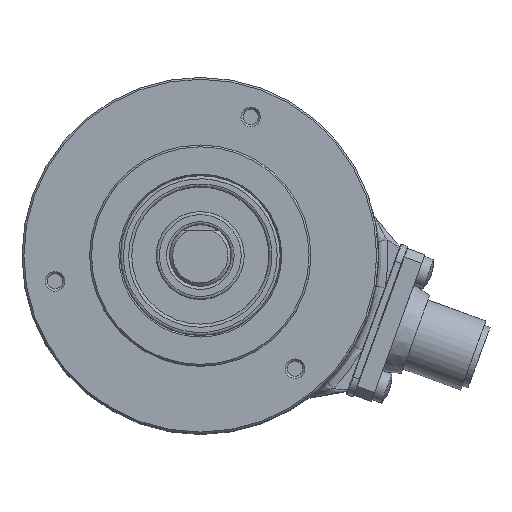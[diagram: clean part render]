
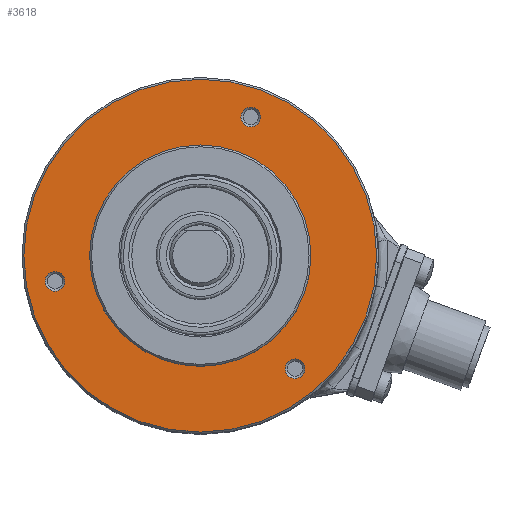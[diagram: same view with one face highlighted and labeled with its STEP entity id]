
A CAD part, top view. The second image highlights one B-rep face of the part: STEP entity #3618.
In plain terms, the highlighted planar face has unit normal (0, 0, 1).
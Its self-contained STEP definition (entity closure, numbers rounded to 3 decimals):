
#37 = DIRECTION ( 'NONE',  ( -1., 0., 0. ) ) ;
#154 = CIRCLE ( 'NONE', #1134, 1.6 ) ;
#320 = CARTESIAN_POINT ( 'NONE',  ( -22.035, -4.168, 16. ) ) ;
#491 = CIRCLE ( 'NONE', #2792, 18. ) ;
#563 = DIRECTION ( 'NONE',  ( 0., 0., 1. ) ) ;
#919 = CIRCLE ( 'NONE', #1224, 28.7 ) ;
#942 = EDGE_LOOP ( 'NONE', ( #1203 ) ) ;
#1051 = AXIS2_PLACEMENT_3D ( 'NONE', #1736, #5940, #2334 ) ;
#1127 = EDGE_LOOP ( 'NONE', ( #4188 ) ) ;
#1134 = AXIS2_PLACEMENT_3D ( 'NONE', #5659, #2058, #6284 ) ;
#1203 = ORIENTED_EDGE ( 'NONE', *, *, #7229, .F. ) ;
#1224 = AXIS2_PLACEMENT_3D ( 'NONE', #5608, #2008, #6226 ) ;
#1242 = VERTEX_POINT ( 'NONE', #6773 ) ;
#1633 = AXIS2_PLACEMENT_3D ( 'NONE', #3180, #7433, #3794 ) ;
#1733 = EDGE_LOOP ( 'NONE', ( #3666 ) ) ;
#1736 = CARTESIAN_POINT ( 'NONE',  ( 0., 18., 16. ) ) ;
#2008 = DIRECTION ( 'NONE',  ( 0., 0., 1. ) ) ;
#2058 = DIRECTION ( 'NONE',  ( 0., 0., 1. ) ) ;
#2193 = EDGE_LOOP ( 'NONE', ( #4160 ) ) ;
#2334 = DIRECTION ( 'NONE',  ( -1., 0., 0. ) ) ;
#2603 = AXIS2_PLACEMENT_3D ( 'NONE', #4079, #563, #4674 ) ;
#2792 = AXIS2_PLACEMENT_3D ( 'NONE', #7130, #3496, #37 ) ;
#2810 = VERTEX_POINT ( 'NONE', #7352 ) ;
#3136 = CARTESIAN_POINT ( 'NONE',  ( 9.808, 22.553, 16. ) ) ;
#3180 = CARTESIAN_POINT ( 'NONE',  ( 8.208, 22.553, 16. ) ) ;
#3336 = CIRCLE ( 'NONE', #2603, 1.6 ) ;
#3496 = DIRECTION ( 'NONE',  ( 0., 0., -1. ) ) ;
#3604 = EDGE_CURVE ( 'NONE', #2810, #2810, #3336, .T. ) ;
#3618 = ADVANCED_FACE ( 'NONE', ( #3687, #4568, #4085, #4364, #4170 ), #5888, .F. ) ;
#3666 = ORIENTED_EDGE ( 'NONE', *, *, #6230, .T. ) ;
#3687 = FACE_OUTER_BOUND ( 'NONE', #2193, .T. ) ;
#3794 = DIRECTION ( 'NONE',  ( 1., 0., 0. ) ) ;
#3962 = VERTEX_POINT ( 'NONE', #6233 ) ;
#4079 = CARTESIAN_POINT ( 'NONE',  ( 15.427, -18.385, 16. ) ) ;
#4085 = FACE_BOUND ( 'NONE', #942, .T. ) ;
#4160 = ORIENTED_EDGE ( 'NONE', *, *, #4261, .T. ) ;
#4170 = FACE_BOUND ( 'NONE', #1733, .T. ) ;
#4188 = ORIENTED_EDGE ( 'NONE', *, *, #3604, .F. ) ;
#4261 = EDGE_CURVE ( 'NONE', #1242, #1242, #919, .T. ) ;
#4275 = EDGE_CURVE ( 'NONE', #6473, #6473, #5468, .T. ) ;
#4364 = FACE_BOUND ( 'NONE', #6520, .T. ) ;
#4568 = FACE_BOUND ( 'NONE', #1127, .T. ) ;
#4674 = DIRECTION ( 'NONE',  ( 1., 0., 0. ) ) ;
#5409 = VERTEX_POINT ( 'NONE', #320 ) ;
#5468 = CIRCLE ( 'NONE', #1633, 1.6 ) ;
#5608 = CARTESIAN_POINT ( 'NONE',  ( 0., 0., 16. ) ) ;
#5659 = CARTESIAN_POINT ( 'NONE',  ( -23.635, -4.168, 16. ) ) ;
#5888 = PLANE ( 'NONE',  #1051 ) ;
#5940 = DIRECTION ( 'NONE',  ( 0., 0., -1. ) ) ;
#6226 = DIRECTION ( 'NONE',  ( -1., 0., 0. ) ) ;
#6230 = EDGE_CURVE ( 'NONE', #3962, #3962, #491, .T. ) ;
#6233 = CARTESIAN_POINT ( 'NONE',  ( -18., 0., 16. ) ) ;
#6284 = DIRECTION ( 'NONE',  ( 1., 0., 0. ) ) ;
#6393 = ORIENTED_EDGE ( 'NONE', *, *, #4275, .F. ) ;
#6473 = VERTEX_POINT ( 'NONE', #3136 ) ;
#6520 = EDGE_LOOP ( 'NONE', ( #6393 ) ) ;
#6773 = CARTESIAN_POINT ( 'NONE',  ( -28.7, 0., 16. ) ) ;
#7130 = CARTESIAN_POINT ( 'NONE',  ( 0., 0., 16. ) ) ;
#7229 = EDGE_CURVE ( 'NONE', #5409, #5409, #154, .T. ) ;
#7352 = CARTESIAN_POINT ( 'NONE',  ( 17.027, -18.385, 16. ) ) ;
#7433 = DIRECTION ( 'NONE',  ( 0., 0., 1. ) ) ;
